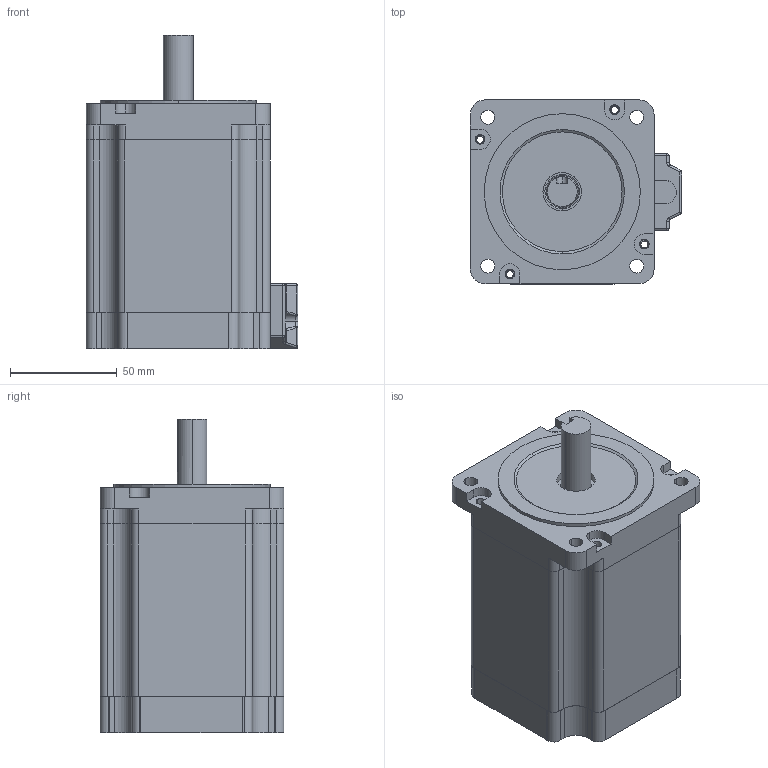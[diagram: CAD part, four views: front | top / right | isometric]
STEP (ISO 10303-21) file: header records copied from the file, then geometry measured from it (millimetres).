
FILE_DESCRIPTION (( 'STEP AP214' ), '1' );
FILE_NAME ('軞蚾 86-3D.STEP', '2024-08-29T03:30:38', ( 'Muse' ), ( 'Muse' ), 'SwSTEP 2.0', 'SolidWorks 2020', '' );
FILE_SCHEMA (( 'AUTOMOTIVE_DESIGN' ));
Length unit declared in the file: millimetre
Products named in the file (9): 軞蚾  86-3D; 86綴裔; 86隅赽; 蛌赽郪璃; 蛌粣; 35-27-0.5 疏菜_35-27-0.5 疏菜; 6202 粣創; 86揤盄輸  等謂 (2); 86ヶ裔
Assembly tree (9 placements, depth 3):
  軞蚾  86-3D
    86綴裔
    86隅赽
    86ヶ裔
    蛌赽郪璃
      蛌粣
      6202 粣創  x2
    35-27-0.5 疏菜_35-27-0.5 疏菜
    86揤盄輸  等謂 (2)
Bounding box: 98.99 x 85.99 x 146.7 mm (x, y, z)
Volume: 413112.2 mm3; surface area: 183406.5 mm2
Topology: 8 solids, 8 shells, 1095 faces, 3430 edges, 2195 vertices
Faces by surface type: cylinder 529, plane 308, sphere 126, torus 114, bspline 10, cone 8
Entity records: 33974 total; most frequent: CARTESIAN_POINT 6875, DIRECTION 5746, ORIENTED_EDGE 5632, EDGE_CURVE 2816, AXIS2_PLACEMENT_3D 2213, VERTEX_POINT 1850, LINE 1320, VECTOR 1320
